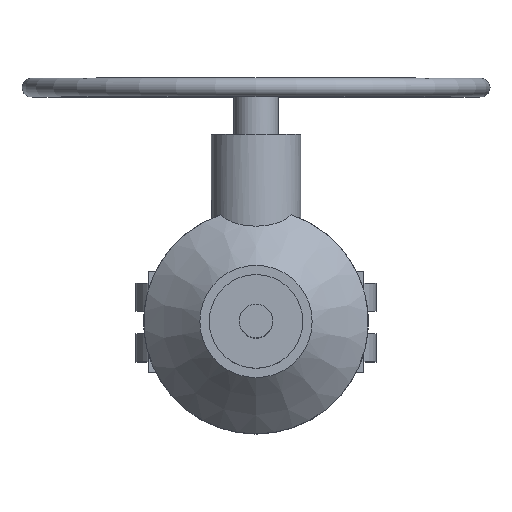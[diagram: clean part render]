
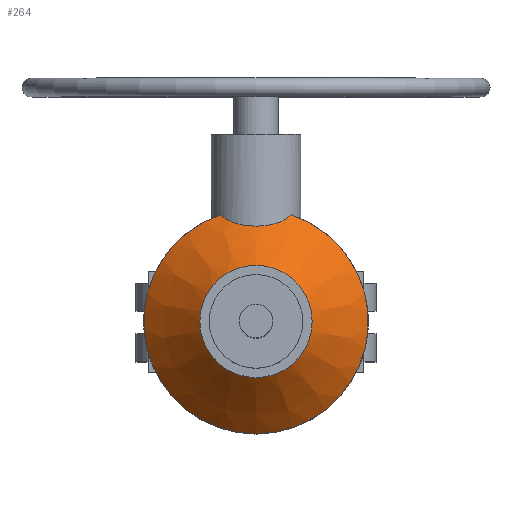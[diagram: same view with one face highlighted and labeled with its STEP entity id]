
A CAD part, top view. The second image highlights one B-rep face of the part: STEP entity #264.
In plain terms, the highlighted conical face has half-angle 45 degrees and reference radius 45 mm.
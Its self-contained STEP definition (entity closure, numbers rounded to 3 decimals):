
#264=ADVANCED_FACE('',(#1300,#1302),#1304,.T.);
#1300=FACE_BOUND('',#1301,.T.);
#1301=EDGE_LOOP('',(#2153,#2154,#2155,#2156));
#1302=FACE_OUTER_BOUND('',#1303,.T.);
#1303=EDGE_LOOP('',(#2157));
#1304=CONICAL_SURFACE('',#1305,45.,0.785);
#1305=AXIS2_PLACEMENT_3D('',#1306,#1307,#1308);
#1306=CARTESIAN_POINT('',(0.,0.,312.));
#1307=DIRECTION('',(0.,0.,-1.));
#1308=DIRECTION('',(0.,-1.,0.));
#2153=ORIENTED_EDGE('',*,*,#2664,.F.);
#2154=ORIENTED_EDGE('',*,*,#2665,.F.);
#2155=ORIENTED_EDGE('',*,*,#2666,.F.);
#2156=ORIENTED_EDGE('',*,*,#2667,.F.);
#2157=ORIENTED_EDGE('',*,*,#2649,.T.);
#2649=EDGE_CURVE('',#2965,#2965,#2966,.T.);
#2664=EDGE_CURVE('',#2991,#2992,#2993,.F.);
#2665=EDGE_CURVE('',#2994,#2991,#2995,.F.);
#2666=EDGE_CURVE('',#2996,#2994,#2997,.T.);
#2667=EDGE_CURVE('',#2992,#2996,#2998,.T.);
#2965=VERTEX_POINT('',#3544);
#2966=CIRCLE('',#3545,30.);
#2991=VERTEX_POINT('',#3603);
#2992=VERTEX_POINT('',#3604);
#2993=B_SPLINE_CURVE_WITH_KNOTS('',3,
(#3605,#3606,#3607,#3608,#3609,#3610,#3611,#3612,#3613,#3614,#3615,#3616,#3617,#3618,
#3619,#3620,#3621,#3622,#3623,#3624,#3625,#3626,#3627,#3628,#3629,#3630,#3631,#3632,
#3633,#3634,#3635,#3636,#3637,#3638,#3639,#3640,#3641,#3642,#3643,#3644,#3645,#3646,
#3647,#3648),
.UNSPECIFIED.,.F.,.F.,
(4,1,1,1,1,1,1,1,1,1,1,1,1,1,1,1,1,1,1,1,1,1,1,1,1,1,1,1,1,1,1,1,1,1,1,1,1,1,1,1,
1,4),
(0.,0.02,0.041,0.061,0.082,
0.102,0.122,0.143,0.163,0.183,
0.204,0.224,0.245,0.266,0.287,
0.308,0.329,0.351,0.375,0.401,
0.441,0.481,0.521,0.551,0.581,
0.621,0.661,0.701,0.735,0.766,
0.794,0.814,0.834,0.853,0.873,
0.892,0.91,0.929,0.947,0.965,
0.982,1.),
.UNSPECIFIED.);
#2994=VERTEX_POINT('',#3649);
#2995=B_SPLINE_CURVE_WITH_KNOTS('',3,
(#3650,#3651,#3652,#3653,#3654,#3655,#3656,#3657,#3658,#3659,#3660,#3661,#3662,#3663,
#3664,#3665,#3666,#3667,#3668,#3669,#3670,#3671,#3672,#3673,#3674,#3675,#3676,#3677,
#3678,#3679,#3680,#3681,#3682,#3683,#3684,#3685,#3686,#3687,#3688,#3689,#3690,#3691,
#3692),
.UNSPECIFIED.,.F.,.F.,
(4,1,1,1,1,1,1,1,1,1,1,1,1,1,1,1,1,1,1,1,1,1,1,1,1,1,1,1,1,1,1,1,1,1,1,1,1,1,1,1,
4),
(0.,0.024,0.047,0.071,0.095,
0.118,0.145,0.173,0.216,0.258,
0.3,0.337,0.371,0.403,0.43,
0.459,0.501,0.543,0.584,0.62,
0.652,0.681,0.703,0.724,0.744,
0.764,0.783,0.802,0.82,0.838,
0.855,0.871,0.887,0.903,0.918,
0.932,0.946,0.96,0.974,0.987,
1.),
.UNSPECIFIED.);
#2996=VERTEX_POINT('',#3693);
#2997=CIRCLE('',#3694,60.);
#2998=CIRCLE('',#3698,60.);
#3544=CARTESIAN_POINT('',(0.,-30.,327.));
#3545=AXIS2_PLACEMENT_3D('',#3546,#3547,#3548);
#3546=CARTESIAN_POINT('',(0.,0.,327.));
#3547=DIRECTION('',(0.,0.,-1.));
#3548=DIRECTION('',(0.,-1.,0.));
#3603=CARTESIAN_POINT('',(0.,51.,306.));
#3604=CARTESIAN_POINT('',(18.735,57.,297.));
#3605=CARTESIAN_POINT('',(18.735,57.,297.));
#3606=CARTESIAN_POINT('',(18.653,56.919,297.102));
#3607=CARTESIAN_POINT('',(18.487,56.759,297.306));
#3608=CARTESIAN_POINT('',(18.232,56.523,297.61));
#3609=CARTESIAN_POINT('',(17.97,56.291,297.91));
#3610=CARTESIAN_POINT('',(17.702,56.064,298.208));
#3611=CARTESIAN_POINT('',(17.428,55.841,298.502));
#3612=CARTESIAN_POINT('',(17.147,55.623,298.794));
#3613=CARTESIAN_POINT('',(16.859,55.409,299.083));
#3614=CARTESIAN_POINT('',(16.564,55.199,299.369));
#3615=CARTESIAN_POINT('',(16.262,54.994,299.652));
#3616=CARTESIAN_POINT('',(15.953,54.793,299.932));
#3617=CARTESIAN_POINT('',(15.636,54.596,300.21));
#3618=CARTESIAN_POINT('',(15.31,54.403,300.484));
#3619=CARTESIAN_POINT('',(14.976,54.214,300.756));
#3620=CARTESIAN_POINT('',(14.633,54.029,301.025));
#3621=CARTESIAN_POINT('',(14.281,53.848,301.291));
#3622=CARTESIAN_POINT('',(13.919,53.672,301.553));
#3623=CARTESIAN_POINT('',(13.534,53.493,301.822));
#3624=CARTESIAN_POINT('',(13.109,53.306,302.106));
#3625=CARTESIAN_POINT('',(12.567,53.083,302.451));
#3626=CARTESIAN_POINT('',(11.915,52.835,302.84));
#3627=CARTESIAN_POINT('',(11.159,52.577,303.254));
#3628=CARTESIAN_POINT('',(10.444,52.357,303.613));
#3629=CARTESIAN_POINT('',(9.777,52.171,303.922));
#3630=CARTESIAN_POINT('',(9.098,51.998,304.213));
#3631=CARTESIAN_POINT('',(8.34,51.825,304.51));
#3632=CARTESIAN_POINT('',(7.502,51.657,304.803));
#3633=CARTESIAN_POINT('',(6.695,51.517,305.052));
#3634=CARTESIAN_POINT('',(5.942,51.403,305.257));
#3635=CARTESIAN_POINT('',(5.267,51.314,305.418));
#3636=CARTESIAN_POINT('',(4.687,51.247,305.54));
#3637=CARTESIAN_POINT('',(4.184,51.196,305.634));
#3638=CARTESIAN_POINT('',(3.741,51.156,305.708));
#3639=CARTESIAN_POINT('',(3.304,51.121,305.773));
#3640=CARTESIAN_POINT('',(2.873,51.091,305.829));
#3641=CARTESIAN_POINT('',(2.447,51.066,305.876));
#3642=CARTESIAN_POINT('',(2.028,51.045,305.915));
#3643=CARTESIAN_POINT('',(1.614,51.028,305.947));
#3644=CARTESIAN_POINT('',(1.206,51.015,305.971));
#3645=CARTESIAN_POINT('',(0.8,51.006,305.988));
#3646=CARTESIAN_POINT('',(0.399,51.001,305.998));
#3647=CARTESIAN_POINT('',(0.133,51.,306.));
#3648=CARTESIAN_POINT('',(0.,51.,306.));
#3649=CARTESIAN_POINT('',(-18.735,57.,297.));
#3650=CARTESIAN_POINT('',(0.,51.,306.));
#3651=CARTESIAN_POINT('',(-0.179,51.,306.));
#3652=CARTESIAN_POINT('',(-0.536,51.002,305.996));
#3653=CARTESIAN_POINT('',(-1.071,51.012,305.978));
#3654=CARTESIAN_POINT('',(-1.604,51.027,305.948));
#3655=CARTESIAN_POINT('',(-2.137,51.05,305.907));
#3656=CARTESIAN_POINT('',(-2.688,51.079,305.851));
#3657=CARTESIAN_POINT('',(-3.277,51.118,305.778));
#3658=CARTESIAN_POINT('',(-4.,51.177,305.669));
#3659=CARTESIAN_POINT('',(-4.836,51.261,305.514));
#3660=CARTESIAN_POINT('',(-5.759,51.376,305.305));
#3661=CARTESIAN_POINT('',(-6.634,51.506,305.071));
#3662=CARTESIAN_POINT('',(-7.442,51.647,304.822));
#3663=CARTESIAN_POINT('',(-8.165,51.789,304.572));
#3664=CARTESIAN_POINT('',(-8.806,51.93,304.329));
#3665=CARTESIAN_POINT('',(-9.401,52.074,304.085));
#3666=CARTESIAN_POINT('',(-10.056,52.246,303.797));
#3667=CARTESIAN_POINT('',(-10.798,52.462,303.44));
#3668=CARTESIAN_POINT('',(-11.601,52.724,303.016));
#3669=CARTESIAN_POINT('',(-12.342,52.994,302.589));
#3670=CARTESIAN_POINT('',(-13.005,53.261,302.175));
#3671=CARTESIAN_POINT('',(-13.579,53.512,301.793));
#3672=CARTESIAN_POINT('',(-14.055,53.737,301.456));
#3673=CARTESIAN_POINT('',(-14.457,53.938,301.159));
#3674=CARTESIAN_POINT('',(-14.801,54.119,300.894));
#3675=CARTESIAN_POINT('',(-15.133,54.302,300.63));
#3676=CARTESIAN_POINT('',(-15.451,54.485,300.367));
#3677=CARTESIAN_POINT('',(-15.755,54.669,300.106));
#3678=CARTESIAN_POINT('',(-16.044,54.851,299.851));
#3679=CARTESIAN_POINT('',(-16.318,55.032,299.6));
#3680=CARTESIAN_POINT('',(-16.577,55.209,299.356));
#3681=CARTESIAN_POINT('',(-16.823,55.384,299.118));
#3682=CARTESIAN_POINT('',(-17.055,55.554,298.887));
#3683=CARTESIAN_POINT('',(-17.276,55.723,298.661));
#3684=CARTESIAN_POINT('',(-17.486,55.888,298.44));
#3685=CARTESIAN_POINT('',(-17.688,56.053,298.223));
#3686=CARTESIAN_POINT('',(-17.88,56.214,298.011));
#3687=CARTESIAN_POINT('',(-18.064,56.374,297.803));
#3688=CARTESIAN_POINT('',(-18.24,56.532,297.599));
#3689=CARTESIAN_POINT('',(-18.411,56.688,297.397));
#3690=CARTESIAN_POINT('',(-18.575,56.844,297.198));
#3691=CARTESIAN_POINT('',(-18.682,56.948,297.066));
#3692=CARTESIAN_POINT('',(-18.735,57.,297.));
#3693=CARTESIAN_POINT('',(0.,-60.,297.));
#3694=AXIS2_PLACEMENT_3D('',#3695,#3696,#3697);
#3695=CARTESIAN_POINT('',(0.,0.,297.));
#3696=DIRECTION('',(0.,0.,-1.));
#3697=DIRECTION('',(0.,-1.,0.));
#3698=AXIS2_PLACEMENT_3D('',#3699,#3700,#3701);
#3699=CARTESIAN_POINT('',(0.,0.,297.));
#3700=DIRECTION('',(0.,0.,-1.));
#3701=DIRECTION('',(0.312,0.95,0.));
